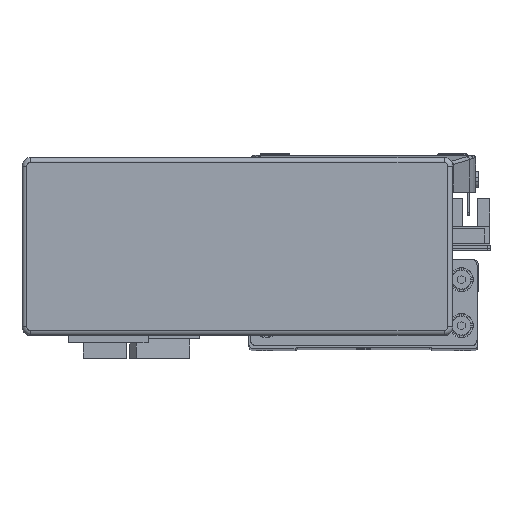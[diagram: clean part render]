
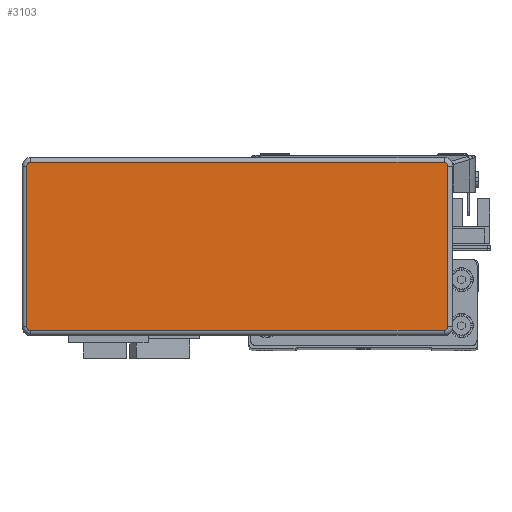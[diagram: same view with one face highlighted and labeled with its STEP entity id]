
A CAD part, top view. The second image highlights one B-rep face of the part: STEP entity #3103.
In plain terms, the highlighted planar face has unit normal (0, 0, 1) as drawn and (0, 0, -1) by its records, which use the part's own axes.
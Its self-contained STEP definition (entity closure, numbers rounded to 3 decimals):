
#3103 = ADVANCED_FACE ( 'NONE', ( #23594 ), #18501, .F. ) ;
#4462 = AXIS2_PLACEMENT_3D ( 'NONE', #18558, #18526, #18521 ) ;
#10672 = LINE ( 'NONE', #12712, #10691 ) ;
#10691 = VECTOR ( 'NONE', #12810, 1000. ) ;
#10793 = LINE ( 'NONE', #12988, #10804 ) ;
#10797 = CIRCLE ( 'NONE', #34056, 1.3 ) ;
#10804 = VECTOR ( 'NONE', #12955, 1000. ) ;
#10845 = CIRCLE ( 'NONE', #34006, 1.3 ) ;
#10898 = LINE ( 'NONE', #13118, #10916 ) ;
#10916 = VECTOR ( 'NONE', #13148, 1000. ) ;
#10928 = CIRCLE ( 'NONE', #34037, 1.3 ) ;
#10953 = LINE ( 'NONE', #13100, #10967 ) ;
#10967 = VECTOR ( 'NONE', #13177, 1000. ) ;
#10976 = CIRCLE ( 'NONE', #34045, 1.3 ) ;
#12712 = CARTESIAN_POINT ( 'NONE',  ( 71.995, 29.295, -32.2 ) ) ;
#12791 = CARTESIAN_POINT ( 'NONE',  ( 71.995, 27.995, -32.2 ) ) ;
#12810 = DIRECTION ( 'NONE',  ( 1., 0., 0. ) ) ;
#12834 = DIRECTION ( 'NONE',  ( 0., 0., -1. ) ) ;
#12840 = DIRECTION ( 'NONE',  ( 1., 0., 0. ) ) ;
#12955 = DIRECTION ( 'NONE',  ( -1., 0., 0. ) ) ;
#12961 = CARTESIAN_POINT ( 'NONE',  ( -71.995, 27.995, -32.2 ) ) ;
#12976 = DIRECTION ( 'NONE',  ( 1., 0., 0. ) ) ;
#12988 = CARTESIAN_POINT ( 'NONE',  ( 71.995, -29.295, -32.2 ) ) ;
#13021 = DIRECTION ( 'NONE',  ( 0., 0., -1. ) ) ;
#13100 = CARTESIAN_POINT ( 'NONE',  ( 73.295, -27.995, -32.2 ) ) ;
#13118 = CARTESIAN_POINT ( 'NONE',  ( -73.295, -27.995, -32.2 ) ) ;
#13124 = CARTESIAN_POINT ( 'NONE',  ( -71.995, -27.995, -32.2 ) ) ;
#13127 = DIRECTION ( 'NONE',  ( 1., 0., 0. ) ) ;
#13148 = DIRECTION ( 'NONE',  ( 0., 1., 0. ) ) ;
#13157 = DIRECTION ( 'NONE',  ( 0., 0., -1. ) ) ;
#13177 = DIRECTION ( 'NONE',  ( 0., -1., 0. ) ) ;
#13204 = DIRECTION ( 'NONE',  ( 0., 0., -1. ) ) ;
#13237 = CARTESIAN_POINT ( 'NONE',  ( 71.995, -27.995, -32.2 ) ) ;
#13241 = DIRECTION ( 'NONE',  ( 1., 0., 0. ) ) ;
#15410 = ORIENTED_EDGE ( 'NONE', *, *, #20972, .T. ) ;
#15420 = ORIENTED_EDGE ( 'NONE', *, *, #20923, .T. ) ;
#15430 = ORIENTED_EDGE ( 'NONE', *, *, #20914, .T. ) ;
#15453 = ORIENTED_EDGE ( 'NONE', *, *, #20951, .T. ) ;
#15470 = ORIENTED_EDGE ( 'NONE', *, *, #20995, .T. ) ;
#15477 = ORIENTED_EDGE ( 'NONE', *, *, #20986, .T. ) ;
#15511 = ORIENTED_EDGE ( 'NONE', *, *, #20942, .T. ) ;
#15514 = ORIENTED_EDGE ( 'NONE', *, *, #20985, .T. ) ;
#15550 = VERTEX_POINT ( 'NONE', #17990 ) ;
#15598 = VERTEX_POINT ( 'NONE', #18024 ) ;
#15599 = VERTEX_POINT ( 'NONE', #17975 ) ;
#15604 = VERTEX_POINT ( 'NONE', #18042 ) ;
#15617 = VERTEX_POINT ( 'NONE', #18079 ) ;
#15628 = VERTEX_POINT ( 'NONE', #18026 ) ;
#15640 = VERTEX_POINT ( 'NONE', #18067 ) ;
#15672 = VERTEX_POINT ( 'NONE', #18125 ) ;
#17975 = CARTESIAN_POINT ( 'NONE',  ( 73.295, 27.995, -32.2 ) ) ;
#17990 = CARTESIAN_POINT ( 'NONE',  ( 71.995, -29.295, -32.2 ) ) ;
#18024 = CARTESIAN_POINT ( 'NONE',  ( -71.995, -29.295, -32.2 ) ) ;
#18026 = CARTESIAN_POINT ( 'NONE',  ( -73.295, -27.995, -32.2 ) ) ;
#18042 = CARTESIAN_POINT ( 'NONE',  ( -73.295, 27.995, -32.2 ) ) ;
#18067 = CARTESIAN_POINT ( 'NONE',  ( -71.995, 29.295, -32.2 ) ) ;
#18079 = CARTESIAN_POINT ( 'NONE',  ( 73.295, -27.995, -32.2 ) ) ;
#18125 = CARTESIAN_POINT ( 'NONE',  ( 71.995, 29.295, -32.2 ) ) ;
#18501 = PLANE ( 'NONE',  #4462 ) ;
#18521 = DIRECTION ( 'NONE',  ( 1., 0., 0. ) ) ;
#18526 = DIRECTION ( 'NONE',  ( 0., 0., 1. ) ) ;
#18558 = CARTESIAN_POINT ( 'NONE',  ( 71.995, -27.995, -32.2 ) ) ;
#20914 = EDGE_CURVE ( 'NONE', #15640, #15672, #10672, .T. ) ;
#20923 = EDGE_CURVE ( 'NONE', #15672, #15599, #10797, .T. ) ;
#20942 = EDGE_CURVE ( 'NONE', #15604, #15640, #10845, .T. ) ;
#20951 = EDGE_CURVE ( 'NONE', #15550, #15598, #10793, .T. ) ;
#20972 = EDGE_CURVE ( 'NONE', #15599, #15617, #10953, .T. ) ;
#20985 = EDGE_CURVE ( 'NONE', #15598, #15628, #10976, .T. ) ;
#20986 = EDGE_CURVE ( 'NONE', #15628, #15604, #10898, .T. ) ;
#20995 = EDGE_CURVE ( 'NONE', #15617, #15550, #10928, .T. ) ;
#23594 = FACE_OUTER_BOUND ( 'NONE', #29743, .T. ) ;
#29743 = EDGE_LOOP ( 'NONE', ( #15410, #15470, #15453, #15514, #15477, #15511, #15430, #15420 ) ) ;
#34006 = AXIS2_PLACEMENT_3D ( 'NONE', #12961, #13021, #12976 ) ;
#34037 = AXIS2_PLACEMENT_3D ( 'NONE', #13237, #13204, #13241 ) ;
#34045 = AXIS2_PLACEMENT_3D ( 'NONE', #13124, #13157, #13127 ) ;
#34056 = AXIS2_PLACEMENT_3D ( 'NONE', #12791, #12834, #12840 ) ;
